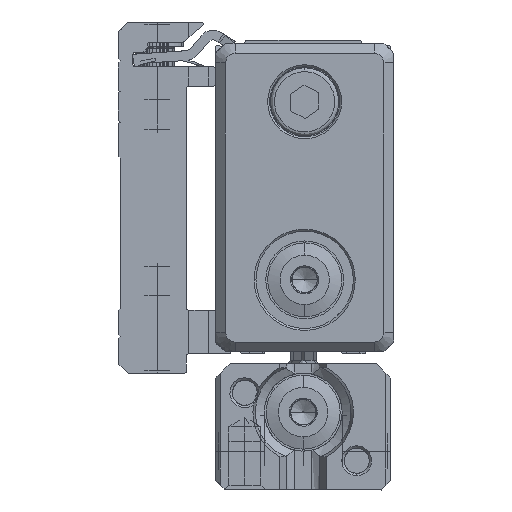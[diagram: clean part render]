
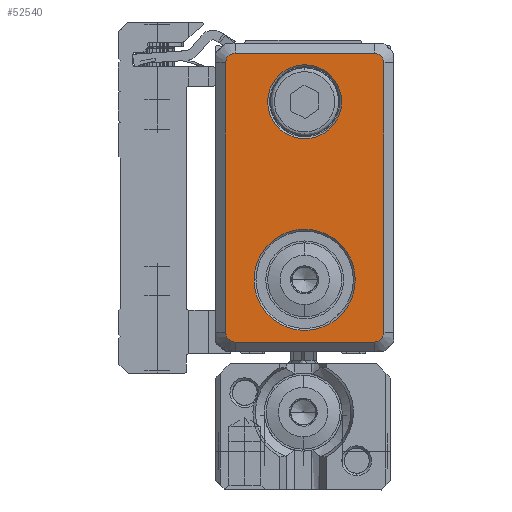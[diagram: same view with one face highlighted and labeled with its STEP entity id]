
A CAD part, left-side view. The second image highlights one B-rep face of the part: STEP entity #52540.
In plain terms, the highlighted planar face has unit normal (-1, 0, 0).
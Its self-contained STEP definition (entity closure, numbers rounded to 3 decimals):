
#12150=CARTESIAN_POINT('',(-1447.138,31.,
-50.583));
#12160=VERTEX_POINT('',#12150);
#12970=CARTESIAN_POINT('',(-1447.138,30.,
-51.583));
#12980=VERTEX_POINT('',#12970);
#13010=CARTESIAN_POINT('',(-1447.138,31.,
-51.583));
#13020=DIRECTION('',(1.,0.,0.));
#13030=DIRECTION('',(0.,1.,0.));
#13040=AXIS2_PLACEMENT_3D('',#13010,#13020,#13030);
#13050=CIRCLE('',#13040,1.);
#13060=EDGE_CURVE('',#12160,#12980,#13050,.T.);
#36450=CARTESIAN_POINT('',(-1447.138,45.3,
-50.583));
#36460=VERTEX_POINT('',#36450);
#36510=CARTESIAN_POINT('',(-1447.138,46.75,
-50.583));
#36520=DIRECTION('',(0.,1.,0.));
#36530=VECTOR('',#36520,1.);
#36540=LINE('',#36510,#36530);
#36550=EDGE_CURVE('',#12160,#36460,#36540,.T.);
#36710=CARTESIAN_POINT('',(-1447.138,46.3,
-51.583));
#36720=VERTEX_POINT('',#36710);
#37250=CARTESIAN_POINT('',(-1447.138,45.3,
-51.583));
#37260=DIRECTION('',(1.,0.,0.));
#37270=DIRECTION('',(0.,1.,0.));
#37280=AXIS2_PLACEMENT_3D('',#37250,#37260,#37270);
#37290=CIRCLE('',#37280,1.);
#37300=EDGE_CURVE('',#36720,#36460,#37290,.T.);
#37510=CARTESIAN_POINT('',(-1447.138,46.3,
-79.283));
#37520=VERTEX_POINT('',#37510);
#37640=CARTESIAN_POINT('',(-1447.138,46.3,
-49.133));
#37650=DIRECTION('',(0.,0.,-1.));
#37660=VECTOR('',#37650,1.);
#37670=LINE('',#37640,#37660);
#37680=EDGE_CURVE('',#36720,#37520,#37670,.T.);
#37810=CARTESIAN_POINT('',(-1447.138,45.3,
-79.283));
#37820=DIRECTION('',(1.,0.,0.));
#37830=DIRECTION('',(0.,1.,0.));
#37840=AXIS2_PLACEMENT_3D('',#37810,#37820,#37830);
#37850=CIRCLE('',#37840,1.);
#37860=CARTESIAN_POINT('',(-1447.138,45.3,
-80.283));
#37870=VERTEX_POINT('',#37860);
#37880=EDGE_CURVE('',#37870,#37520,#37850,.T.);
#40200=CARTESIAN_POINT('',(-1447.138,31.,
-80.283));
#40210=VERTEX_POINT('',#40200);
#40260=CARTESIAN_POINT('',(-1447.138,46.75,
-80.283));
#40270=DIRECTION('',(0.,-1.,0.));
#40280=VECTOR('',#40270,1.);
#40290=LINE('',#40260,#40280);
#40300=EDGE_CURVE('',#37870,#40210,#40290,.T.);
#40660=CARTESIAN_POINT('',(-1447.138,31.,
-79.283));
#40670=DIRECTION('',(1.,0.,0.));
#40680=DIRECTION('',(0.,1.,0.));
#40690=AXIS2_PLACEMENT_3D('',#40660,#40670,#40680);
#40700=CIRCLE('',#40690,1.);
#40710=CARTESIAN_POINT('',(-1447.138,30.,
-79.283));
#40720=VERTEX_POINT('',#40710);
#40730=EDGE_CURVE('',#40720,#40210,#40700,.T.);
#41000=CARTESIAN_POINT('',(-1447.138,30.,
-49.133));
#41010=DIRECTION('',(0.,0.,1.));
#41020=VECTOR('',#41010,1.);
#41030=LINE('',#41000,#41020);
#41040=EDGE_CURVE('',#40720,#12980,#41030,.T.);
#52090=CARTESIAN_POINT('',(-1447.138,38.15,
-65.583));
#52100=DIRECTION('',(1.,0.,0.));
#52110=DIRECTION('',(0.,1.,0.));
#52120=AXIS2_PLACEMENT_3D('',#52090,#52100,#52110);
#52130=PLANE('',#52120);
#52140=CARTESIAN_POINT('',(-1447.138,38.15,
-56.983));
#52150=DIRECTION('',(1.,0.,0.));
#52160=DIRECTION('',(0.,-1.,0.));
#52170=AXIS2_PLACEMENT_3D('',#52140,#52150,#52160);
#52180=CIRCLE('',#52170,5.2);
#52190=CARTESIAN_POINT('',(-1447.138,32.95,
-56.983));
#52200=VERTEX_POINT('',#52190);
#52210=CARTESIAN_POINT('',(-1447.138,43.35,
-56.983));
#52220=VERTEX_POINT('',#52210);
#52230=EDGE_CURVE('',#52200,#52220,#52180,.T.);
#52240=ORIENTED_EDGE('',*,*,#52230,.T.);
#52250=EDGE_CURVE('',#52220,#52200,#52180,.T.);
#52260=ORIENTED_EDGE('',*,*,#52250,.T.);
#52270=EDGE_LOOP('',(#52260,#52240));
#52280=FACE_BOUND('',#52270,.T.);
#52290=CARTESIAN_POINT('',(-1447.138,38.15,
-75.283));
#52300=DIRECTION('',(-1.,0.,0.));
#52310=DIRECTION('',(0.,1.,0.));
#52320=AXIS2_PLACEMENT_3D('',#52290,#52300,#52310);
#52330=CIRCLE('',#52320,3.8);
#52340=CARTESIAN_POINT('',(-1447.138,34.35,
-75.283));
#52350=VERTEX_POINT('',#52340);
#52360=CARTESIAN_POINT('',(-1447.138,41.95,
-75.283));
#52370=VERTEX_POINT('',#52360);
#52380=EDGE_CURVE('',#52350,#52370,#52330,.T.);
#52390=ORIENTED_EDGE('',*,*,#52380,.F.);
#52400=EDGE_CURVE('',#52370,#52350,#52330,.T.);
#52410=ORIENTED_EDGE('',*,*,#52400,.F.);
#52420=EDGE_LOOP('',(#52410,#52390));
#52430=FACE_BOUND('',#52420,.T.);
#52440=ORIENTED_EDGE('',*,*,#40300,.T.);
#52450=ORIENTED_EDGE('',*,*,#37880,.F.);
#52460=ORIENTED_EDGE('',*,*,#37680,.T.);
#52470=ORIENTED_EDGE('',*,*,#37300,.F.);
#52480=ORIENTED_EDGE('',*,*,#36550,.T.);
#52490=ORIENTED_EDGE('',*,*,#13060,.F.);
#52500=ORIENTED_EDGE('',*,*,#41040,.T.);
#52510=ORIENTED_EDGE('',*,*,#40730,.F.);
#52520=EDGE_LOOP('',(#52510,#52500,#52490,#52480,#52470,#52460,#52450,
#52440));
#52530=FACE_OUTER_BOUND('',#52520,.T.);
#52540=ADVANCED_FACE('',(#52280,#52430,#52530),#52130,.F.);
